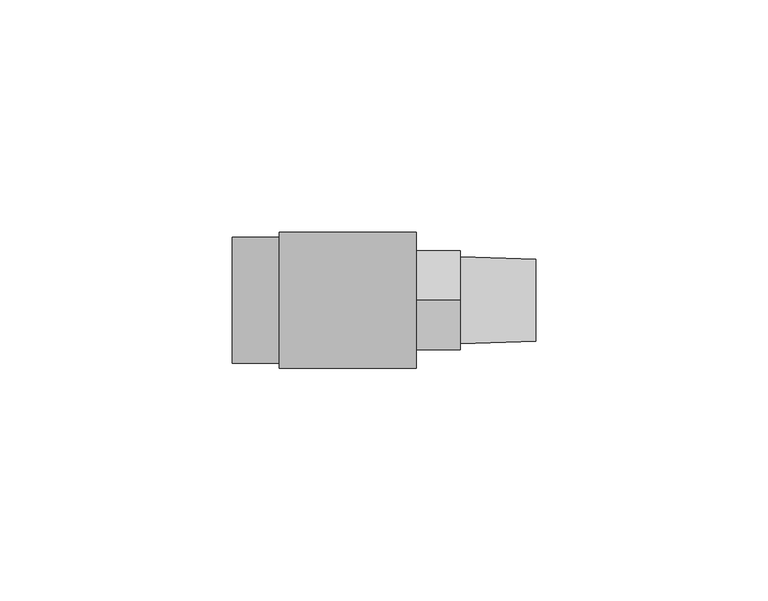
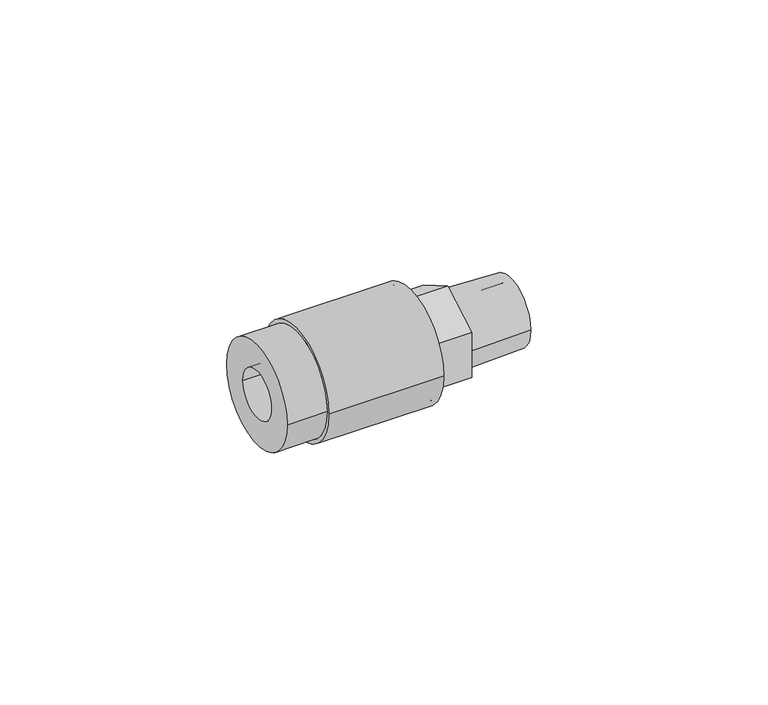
"""IFC4 building model written with IfcOpenShell, lengths in millimetres: pipe fitting geometry, Aquatherm - Fusion Outlet Transition Male : POTABLE BRASS - HEX."""

from ifc_helpers import new_model, si_unit, frame, origin, place, context, project, spatial, polyline, circle_curve, source, transform, mapped, element, save
from ifc_brep_helpers import plane_surface, cylinder_surface, revolved_surface, advanced_brep


def pipe_fitting_d6e4b8a1(model_context):
    return source(origin(), model_context, "Body", "AdvancedBrep", [
        advanced_brep(
        [(9.445625, 13.589, 0.0), (9.445625, -13.589, 0.0), (9.445625, 6.35, 0.0), (9.445625, -6.35, 0.0), (29.257625, 13.589, 0.0), (29.257625, -13.589, 0.0), (29.257625, 0.0, -12.3183453), (29.257625, -10.668, -6.1591727), (29.257625, -10.668, 6.1591727), (29.257625, 0.0, 12.3183453), (29.257625, 10.668, 6.1591727), (29.257625, 10.668, -6.1591727), (29.257625, 6.35, 0.0), (29.257625, -6.35, 0.0), (38.909625, 0.0, -12.3183453), (38.909625, 10.668, -6.1591727), (38.909625, 10.668, 6.1591727), (38.909625, 0.0, 12.3183453), (38.909625, -10.668, 6.1591727), (38.909625, -10.668, -6.1591727), (38.909625, 9.3810449, 0.0), (38.909625, -9.3810449, 0.0), (38.909625, 6.35, 0.0), (38.909625, -6.35, 0.0), (55.165625, -6.35, 0.0), (55.165625, 6.35, 0.0), (55.165625, -8.8752051, 0.0), (55.165625, 8.8752051, 0.0)],
        [
            (0, 1, circle_curve(frame((9.445625, 0.0, 0.0), z_axis=(-1.0, 0.0, 0.0), x_axis=(0.0, -1.0, 0.0)), 13.589)),
            (1, 0, circle_curve(frame((9.445625, 0.0, 0.0), z_axis=(-1.0, 0.0, 0.0), x_axis=(0.0, -1.0, 0.0)), 13.589)),
            (2, 3, circle_curve(frame((9.445625, 0.0, 0.0), z_axis=(1.0, 0.0, 0.0), x_axis=(0.0, -1.0, 0.0)), 6.35)),
            (3, 2, circle_curve(frame((9.445625, 0.0, 0.0), z_axis=(1.0, 0.0, 0.0), x_axis=(0.0, -1.0, 0.0)), 6.35)),
            (4, 5, circle_curve(frame((29.257625, 0.0, 0.0), z_axis=(1.0, 0.0, 0.0), x_axis=(0.0, -1.0, 0.0)), 13.589)),
            (5, 4, circle_curve(frame((29.257625, 0.0, 0.0), z_axis=(1.0, 0.0, 0.0), x_axis=(0.0, -1.0, 0.0)), 13.589)),
            (6, 7),
            (7, 8),
            (8, 9),
            (9, 10),
            (10, 11),
            (11, 6),
            (0, 4),
            (5, 1),
            (2, 12),
            (12, 13, circle_curve(frame((29.257625, 0.0, 0.0), z_axis=(1.0, 0.0, 0.0), x_axis=(0.0, -1.0, 0.0)), 6.35)),
            (13, 3),
            (13, 12, circle_curve(frame((29.257625, 0.0, 0.0), z_axis=(1.0, 0.0, 0.0), x_axis=(0.0, -1.0, 0.0)), 6.35)),
            (14, 15),
            (15, 16),
            (16, 17),
            (17, 18),
            (18, 19),
            (19, 14),
            (20, 21, circle_curve(frame((38.909625, 0.0, 0.0), z_axis=(-1.0, 0.0, 0.0), x_axis=(0.0, -1.0, 0.0)), 9.3810449)),
            (21, 20, circle_curve(frame((38.909625, 0.0, 0.0), z_axis=(-1.0, 0.0, 0.0), x_axis=(0.0, -1.0, 0.0)), 9.3810449)),
            (19, 7),
            (6, 14),
            (18, 8),
            (17, 9),
            (16, 10),
            (15, 11),
            (12, 22),
            (22, 23, circle_curve(frame((38.909625, 0.0, 0.0), z_axis=(1.0, 0.0, 0.0), x_axis=(0.0, -1.0, 0.0)), 6.35)),
            (23, 13),
            (23, 22, circle_curve(frame((38.909625, 0.0, 0.0), z_axis=(1.0, 0.0, 0.0), x_axis=(0.0, -1.0, 0.0)), 6.35)),
            (23, 24),
            (24, 25, circle_curve(frame((55.165625, 0.0, 0.0), z_axis=(1.0, 0.0, 0.0), x_axis=(0.0, -1.0, 0.0)), 6.35)),
            (25, 22),
            (25, 24, circle_curve(frame((55.165625, 0.0, 0.0), z_axis=(1.0, 0.0, 0.0), x_axis=(0.0, -1.0, 0.0)), 6.35)),
            (24, 26),
            (26, 27, circle_curve(frame((55.165625, 0.0, 0.0), z_axis=(1.0, 0.0, 0.0), x_axis=(0.0, -1.0, 0.0)), 8.8752051)),
            (27, 25),
            (27, 26, circle_curve(frame((55.165625, 0.0, 0.0), z_axis=(1.0, 0.0, 0.0), x_axis=(0.0, -1.0, 0.0)), 8.8752051)),
            (26, 21),
            (20, 27),
        ],
        [
            plane_surface(frame((9.445625, -13.589, 0.0), z_axis=(-1.0, 0.0, 0.0), x_axis=(0.0, 0.0, 1.0))),
            plane_surface(frame((29.257625, -13.589, 0.0), z_axis=(1.0, 0.0, 0.0), x_axis=(0.0, 0.0, -1.0))),
            cylinder_surface(frame((29.257625, 0.0, 0.0), z_axis=(-1.0, 0.0, 0.0), x_axis=(0.0, -1.0, 0.0)), 13.589),
            revolved_surface(polyline([(29.257625, -6.35, 0.0), (9.445625, -6.35, 0.0)]), (11.810406, 0.0, 0.0), (1.0, 0.0, 0.0)),
            plane_surface(frame((38.909625, 0.0, -12.3183453), z_axis=(1.0, 0.0, 0.0), x_axis=(0.0, 0.8660254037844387, -0.5))),
            plane_surface(frame((29.257625, 0.0, -12.3183453), z_axis=(0.0, -0.5, -0.8660254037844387), x_axis=(1.0, 0.0, 0.0))),
            plane_surface(frame((29.257625, -10.668, -6.1591727), z_axis=(0.0, -1.0, 0.0), x_axis=(1.0, 0.0, 0.0))),
            plane_surface(frame((29.257625, -10.668, 6.1591727), z_axis=(0.0, -0.49999999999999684, 0.8660254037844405), x_axis=(1.0, 0.0, 0.0))),
            plane_surface(frame((29.257625, 0.0, 12.3183453), z_axis=(0.0, 0.5000000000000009, 0.8660254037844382), x_axis=(1.0, 0.0, 0.0))),
            plane_surface(frame((29.257625, 10.668, 6.1591727), z_axis=(0.0, 1.0, 0.0), x_axis=(1.0, 0.0, 0.0))),
            plane_surface(frame((29.257625, 10.668, -6.1591727), z_axis=(0.0, 0.49999999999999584, -0.8660254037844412), x_axis=(1.0, 0.0, 0.0))),
            revolved_surface(polyline([(38.909625, -6.35, 0.0), (29.257625, -6.35, 0.0)]), (29.257625, 0.0, 0.0), (1.0, 0.0, 0.0)),
            revolved_surface(polyline([(55.165625, -6.35, 0.0), (38.909625, -6.35, 0.0)]), (90.0386938, 0.0, 0.0), (1.0, 0.0, 0.0)),
            plane_surface(frame((55.165625, 0.0, 0.0), z_axis=(1.0, 0.0, 0.0), x_axis=(0.0, -1.0, 0.0))),
            revolved_surface(polyline([(38.909625, -9.3810449, 0.0), (55.165625, -8.8752051, 0.0)]), (90.0386938, 0.0, 0.0), (1.0, 0.0, 0.0)),
        ],
        [
            (0, [[1, 2], [3, 4]]),
            (1, [[5, 6], [7, 8, 9, 10, 11, 12]]),
            (2, [[-1, 13, -6, 14]]),
            (2, [[-2, -14, -5, -13]]),
            (3, [[-3, 15, 16, 17]]),
            (3, [[-4, -17, 18, -15]]),
            (4, [[19, 20, 21, 22, 23, 24], [25, 26]]),
            (5, [[-24, 27, -7, 28]]),
            (6, [[-23, 29, -8, -27]]),
            (7, [[-22, 30, -9, -29]]),
            (8, [[-21, 31, -10, -30]]),
            (9, [[-20, 32, -11, -31]]),
            (10, [[-19, -28, -12, -32]]),
            (11, [[33, 34, 35, -16]]),
            (11, [[-33, -18, -35, 36]]),
            (12, [[37, 38, 39, -36]]),
            (12, [[-37, -34, -39, 40]]),
            (13, [[-38, 41, 42, 43]]),
            (13, [[-40, -43, 44, -41]]),
            (14, [[-42, 45, -25, 46]]),
            (14, [[-44, -46, -26, -45]]),
        ],
    ),
        advanced_brep(
        [(9.4257813, 13.5929688, 0.0), (9.4257813, -13.5929687, 0.0), (9.4257813, 6.35, 0.0), (9.4257813, -6.35, 0.0), (-10.16, -6.35, 0.0), (-10.16, 6.35, 0.0), (-10.16, -13.5929688, 0.0), (-10.16, 13.5929688, 0.0), (0.0, 13.5929688, 0.0), (0.0, -13.5929688, 0.0), (29.4441562, 14.6347656, 0.0), (29.4441562, -14.6347656, 0.0), (29.4441562, 13.5929688, 0.0), (29.4441562, -13.5929687, 0.0), (0.0, -14.6347656, 0.0), (0.0, 14.6347656, 0.0)],
        [
            (0, 1, circle_curve(frame((9.4257813, 0.0, 0.0), z_axis=(1.0, 0.0, 0.0), x_axis=(0.0, -1.0, 0.0)), 13.5929688)),
            (1, 0, circle_curve(frame((9.4257813, 0.0, 0.0), z_axis=(1.0, 0.0, 0.0), x_axis=(0.0, -1.0, 0.0)), 13.5929688)),
            (2, 3, circle_curve(frame((9.4257813, 0.0, 0.0), z_axis=(-1.0, 0.0, 0.0), x_axis=(0.0, -1.0, 0.0)), 6.35)),
            (3, 2, circle_curve(frame((9.4257813, 0.0, 0.0), z_axis=(-1.0, 0.0, 0.0), x_axis=(0.0, -1.0, 0.0)), 6.35)),
            (4, 5, circle_curve(frame((-10.16, 0.0, 0.0), z_axis=(-1.0, 0.0, 0.0), x_axis=(0.0, -1.0, 0.0)), 6.35)),
            (5, 2),
            (3, 4),
            (5, 4, circle_curve(frame((-10.16, 0.0, 0.0), z_axis=(-1.0, 0.0, 0.0), x_axis=(0.0, -1.0, 0.0)), 6.35)),
            (6, 7, circle_curve(frame((-10.16, 0.0, 0.0), z_axis=(1.0, 0.0, 0.0), x_axis=(0.0, -1.0, 0.0)), 13.5929688)),
            (7, 8),
            (8, 9, circle_curve(frame((0.0, 0.0, 0.0), z_axis=(-1.0, 0.0, 0.0), x_axis=(0.0, -1.0, 0.0)), 13.5929688)),
            (9, 6),
            (7, 6, circle_curve(frame((-10.16, 0.0, 0.0), z_axis=(1.0, 0.0, 0.0), x_axis=(0.0, -1.0, 0.0)), 13.5929688)),
            (9, 8, circle_curve(frame((0.0, 0.0, 0.0), z_axis=(-1.0, 0.0, 0.0), x_axis=(0.0, -1.0, 0.0)), 13.5929688)),
            (10, 11, circle_curve(frame((29.4441562, 0.0, 0.0), z_axis=(1.0, 0.0, 0.0), x_axis=(0.0, -1.0, 0.0)), 14.6347656)),
            (11, 10, circle_curve(frame((29.4441562, 0.0, 0.0), z_axis=(1.0, 0.0, 0.0), x_axis=(0.0, -1.0, 0.0)), 14.6347656)),
            (12, 13, circle_curve(frame((29.4441562, 0.0, 0.0), z_axis=(-1.0, 0.0, 0.0), x_axis=(0.0, -1.0, 0.0)), 13.5929688)),
            (13, 12, circle_curve(frame((29.4441562, 0.0, 0.0), z_axis=(-1.0, 0.0, 0.0), x_axis=(0.0, -1.0, 0.0)), 13.5929688)),
            (13, 1),
            (0, 12),
            (11, 14),
            (14, 15, circle_curve(frame((0.0, 0.0, 0.0), z_axis=(1.0, 0.0, 0.0), x_axis=(0.0, -1.0, 0.0)), 14.6347656)),
            (15, 10),
            (15, 14, circle_curve(frame((0.0, 0.0, 0.0), z_axis=(1.0, 0.0, 0.0), x_axis=(0.0, -1.0, 0.0)), 14.6347656)),
        ],
        [
            plane_surface(frame((9.4257813, -6.35, 0.0), z_axis=(1.0, 0.0, 0.0), x_axis=(0.0, 0.0, 1.0))),
            revolved_surface(polyline([(9.4257813, -6.35, 0.0), (-10.16, -6.35, 0.0)]), (9.4257813, 0.0, 0.0), (1.0, 0.0, 0.0)),
            cylinder_surface(frame((0.0, 0.0, 0.0), z_axis=(-1.0, 0.0, 0.0), x_axis=(0.0, -1.0, 0.0)), 13.5929688),
            plane_surface(frame((29.4441562, -13.5929687, 0.0), z_axis=(1.0, 0.0, 0.0), x_axis=(0.0, 0.0, 1.0))),
            revolved_surface(polyline([(29.4441562, -13.5929688, 0.0), (9.4257813, -13.5929688, 0.0)]), (29.4441562, 0.0, 0.0), (1.0, 0.0, 0.0)),
            cylinder_surface(frame((0.0, 0.0, 0.0), z_axis=(-1.0, 0.0, 0.0), x_axis=(0.0, -1.0, 0.0)), 14.6347656),
            plane_surface(frame((-10.16, -6.35, 0.0), z_axis=(-1.0, 0.0, 0.0), x_axis=(0.0, 0.0, -1.0))),
            plane_surface(frame((0.0, -13.5929687, 0.0), z_axis=(-1.0, 0.0, 0.0), x_axis=(0.0, 0.0, -1.0))),
        ],
        [
            (0, [[1, 2], [3, 4]]),
            (1, [[5, 6, -4, 7]]),
            (1, [[8, -7, -3, -6]]),
            (2, [[9, 10, 11, 12]]),
            (2, [[13, -12, 14, -10]]),
            (3, [[15, 16], [17, 18]]),
            (4, [[-18, 19, -1, 20]]),
            (4, [[-17, -20, -2, -19]]),
            (5, [[-16, 21, 22, 23]]),
            (5, [[-15, -23, 24, -21]]),
            (6, [[-9, -13], [-5, -8]]),
            (7, [[-22, -24], [-11, -14]]),
        ],
    ),
    ])


if __name__ == "__main__":
    model = new_model("IFC4")
    model_context = context("Model", 3, world=origin())
    ifc_project = project(units=[si_unit("LENGTHUNIT", "METRE", prefix="MILLI")], contexts=[model_context])
    site = spatial("IfcSite", under=ifc_project)
    building = spatial("IfcBuilding", under=site)
    placement = place(None, origin())
    pipe_fitting_shape = pipe_fitting_d6e4b8a1(model_context)
    element("IfcPipeFitting", 1, ObjectType="Aquatherm - Fusion Outlet Transition Male : POTABLE BRASS - HEX", at=placement, inside=building, context=model_context, shape_type="MappedRepresentation", body=[
        mapped(pipe_fitting_shape, transform((0.0, 0.0, 0.0), x_axis=(1.0, 0.0, 0.0), y_axis=(0.0, 1.0, 0.0), z_axis=(0.0, 0.0, 1.0))),
    ])
    save(model, "model.ifc")
